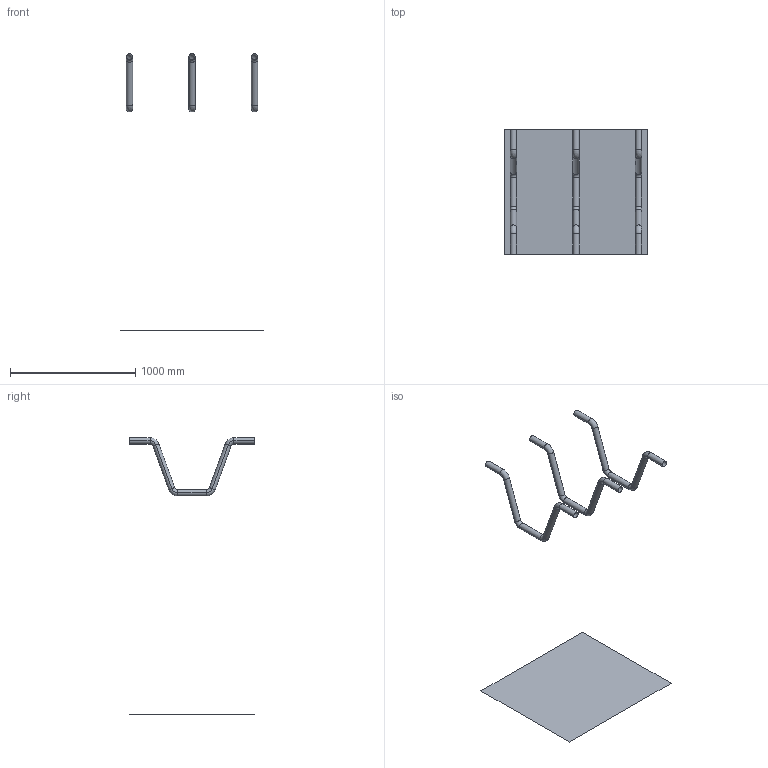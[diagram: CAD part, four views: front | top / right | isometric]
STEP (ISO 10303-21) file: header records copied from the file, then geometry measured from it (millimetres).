
FILE_DESCRIPTION(('CATIA V5 STEP Exchange'),'2;1');
FILE_NAME('C:\_Andres\UNIVERSIDAD\IQS\ASIGNATURAS\DAO\EXF\EXF-16172c\2inicio\Homs_Ruano_Ej08_v15.stp','2017-03-05T21:54:52+00:00',('none'),('none'),'CATIA Version 5-6 Release 2014 SP1 HF18','CATIA V5 STEP AP203','none');
FILE_SCHEMA(('CONFIG_CONTROL_DESIGN'));
Length unit declared in the file: millimetre
Products named in the file (1): Homs_Ruano_Ej08_v15
Bounding box: 1150 x 1000 x 2210 mm (x, y, z)
Surface area: 1878816.6 mm2 (no closed solid volume)
Topology: 0 solids, 4 shells, 55 faces, 118 edges, 64 vertices
Faces by surface type: cylinder 30, torus 24, plane 1
Entity records: 1283 total; most frequent: ORIENTED_EDGE 220, CARTESIAN_POINT 208, DIRECTION 168, EDGE_CURVE 118, AXIS2_PLACEMENT_3D 110, CIRCLE 84, VERTEX_POINT 64, ADVANCED_FACE 55
